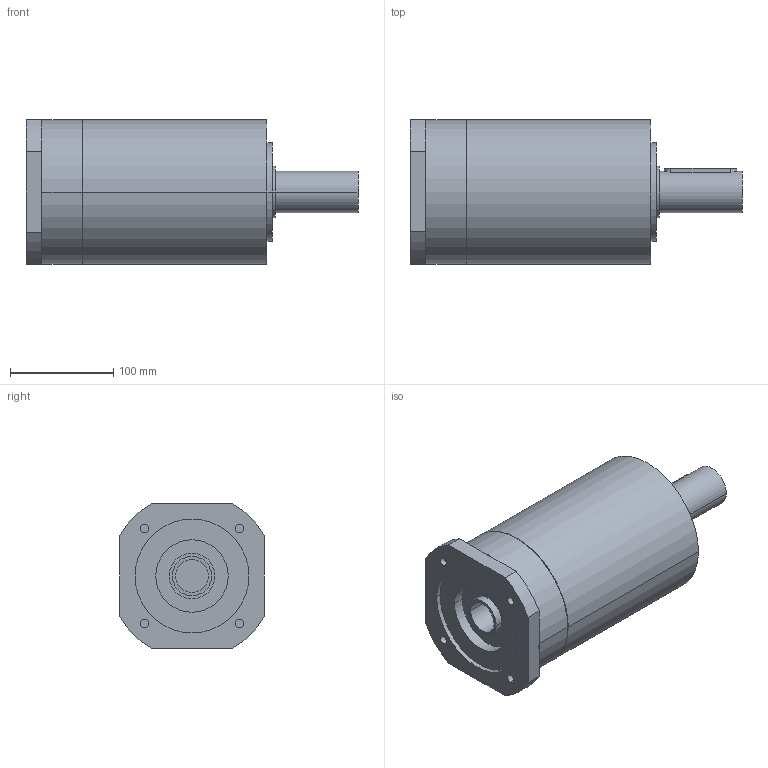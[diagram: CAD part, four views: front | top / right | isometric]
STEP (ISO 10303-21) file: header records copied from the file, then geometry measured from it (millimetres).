
FILE_DESCRIPTION(('CoCreate Modeling STEP Export'),'2;1');
FILE_NAME('GPR150_ig-9-12-16-20-28-35_40_B14_32_P04.stp','2014-08-19T17:03:59',(''),(''),'CoCreate Modeling STEP processor for AP214 (Solid Model)','CoCreate Modeling 16.00C 25-Feb-2009 (C) Parametric Technology GmbH','');
FILE_SCHEMA(('AUTOMOTIVE_DESIGN { 1 0 10303 214 1 1 1 1 }'));
Length unit declared in the file: millimetre
Products named in the file (2): GPR150_ig-9-12-16-20-28-35_40_B14_32_P04
Assembly tree (1 placements, depth 2):
  GPR150_ig-9-12-16-20-28-35_40_B14_32_P04
    GPR150_ig-9-12-16-20-28-35_40_B14_32_P04
Bounding box: 321 x 140 x 140 mm (x, y, z)
Volume: 3613842.4 mm3; surface area: 172506.9 mm2
Topology: 1 solids, 1 shells, 89 faces, 238 edges, 164 vertices
Faces by surface type: cylinder 52, plane 31, cone 6
Entity records: 2401 total; most frequent: ORIENTED_EDGE 472, CARTESIAN_POINT 451, DIRECTION 322, EDGE_CURVE 236, VERTEX_POINT 164, AXIS2_PLACEMENT_3D 123, EDGE_LOOP 112, FACE_OUTER_BOUND 89
